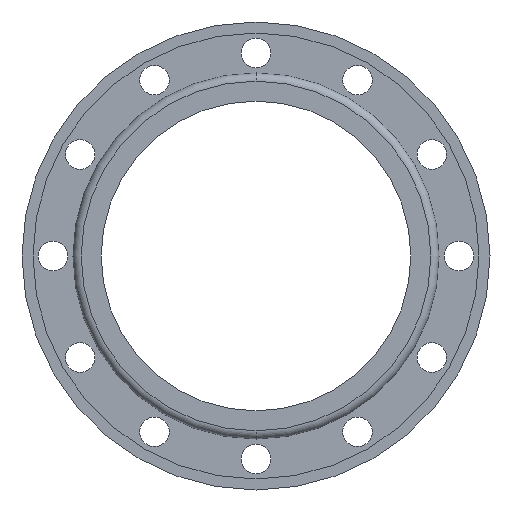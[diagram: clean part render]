
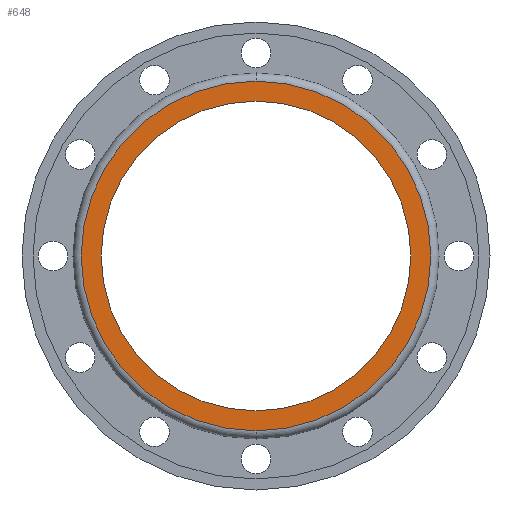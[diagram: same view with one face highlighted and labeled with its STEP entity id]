
A CAD part, front view. The second image highlights one B-rep face of the part: STEP entity #648.
In plain terms, the highlighted planar face has unit normal (0, -1, 0).
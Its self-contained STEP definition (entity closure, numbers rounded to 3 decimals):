
#48 = AXIS2_PLACEMENT_3D ( 'NONE', #92, #1387, #1363 ) ;
#60 = VERTEX_POINT ( 'NONE', #315 ) ;
#71 = EDGE_CURVE ( 'NONE', #624, #838, #379, .T. ) ;
#86 = DIRECTION ( 'NONE',  ( 0., 1., 0. ) ) ;
#92 = CARTESIAN_POINT ( 'NONE',  ( 0., 0., 0. ) ) ;
#131 = DIRECTION ( 'NONE',  ( 0., 0., 1. ) ) ;
#143 = FACE_OUTER_BOUND ( 'NONE', #701, .T. ) ;
#226 = AXIS2_PLACEMENT_3D ( 'NONE', #373, #615, #131 ) ;
#262 = CARTESIAN_POINT ( 'NONE',  ( -127., 0., 0. ) ) ;
#304 = AXIS2_PLACEMENT_3D ( 'NONE', #708, #345, #1290 ) ;
#315 = CARTESIAN_POINT ( 'NONE',  ( 0., 0., 112.5 ) ) ;
#329 = AXIS2_PLACEMENT_3D ( 'NONE', #803, #86, #1533 ) ;
#336 = ORIENTED_EDGE ( 'NONE', *, *, #1190, .F. ) ;
#345 = DIRECTION ( 'NONE',  ( 0., 1., 0. ) ) ;
#373 = CARTESIAN_POINT ( 'NONE',  ( 0., 0., 0. ) ) ;
#378 = FACE_BOUND ( 'NONE', #1131, .T. ) ;
#379 = CIRCLE ( 'NONE', #329, 127. ) ;
#501 = CARTESIAN_POINT ( 'NONE',  ( 0., 0., -127. ) ) ;
#521 = ORIENTED_EDGE ( 'NONE', *, *, #71, .F. ) ;
#615 = DIRECTION ( 'NONE',  ( 0., 1., 0. ) ) ;
#618 = DIRECTION ( 'NONE',  ( 0., 0., -1. ) ) ;
#624 = VERTEX_POINT ( 'NONE', #501 ) ;
#648 = ADVANCED_FACE ( 'NONE', ( #378, #143 ), #1323, .T. ) ;
#701 = EDGE_LOOP ( 'NONE', ( #336, #521 ) ) ;
#702 = CARTESIAN_POINT ( 'NONE',  ( 0., 0., 127. ) ) ;
#708 = CARTESIAN_POINT ( 'NONE',  ( 0., 0., 0. ) ) ;
#710 = CARTESIAN_POINT ( 'NONE',  ( 0., 0., -112.5 ) ) ;
#715 = CIRCLE ( 'NONE', #48, 127. ) ;
#732 = CIRCLE ( 'NONE', #304, 112.5 ) ;
#784 = AXIS2_PLACEMENT_3D ( 'NONE', #262, #1339, #618 ) ;
#803 = CARTESIAN_POINT ( 'NONE',  ( 0., 0., 0. ) ) ;
#831 = ORIENTED_EDGE ( 'NONE', *, *, #949, .T. ) ;
#838 = VERTEX_POINT ( 'NONE', #702 ) ;
#893 = CIRCLE ( 'NONE', #226, 112.5 ) ;
#908 = VERTEX_POINT ( 'NONE', #710 ) ;
#949 = EDGE_CURVE ( 'NONE', #908, #60, #893, .T. ) ;
#1131 = EDGE_LOOP ( 'NONE', ( #1349, #831 ) ) ;
#1190 = EDGE_CURVE ( 'NONE', #838, #624, #715, .T. ) ;
#1290 = DIRECTION ( 'NONE',  ( 0., 0., 1. ) ) ;
#1323 = PLANE ( 'NONE',  #784 ) ;
#1339 = DIRECTION ( 'NONE',  ( 0., -1., 0. ) ) ;
#1349 = ORIENTED_EDGE ( 'NONE', *, *, #1351, .T. ) ;
#1351 = EDGE_CURVE ( 'NONE', #60, #908, #732, .T. ) ;
#1363 = DIRECTION ( 'NONE',  ( 0., 0., 1. ) ) ;
#1387 = DIRECTION ( 'NONE',  ( 0., 1., 0. ) ) ;
#1533 = DIRECTION ( 'NONE',  ( 0., 0., 1. ) ) ;
